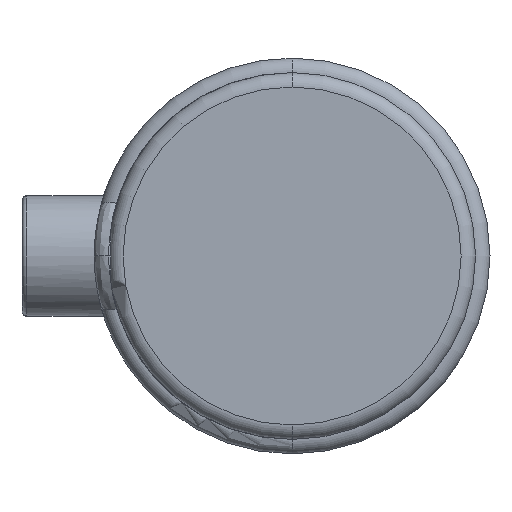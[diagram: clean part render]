
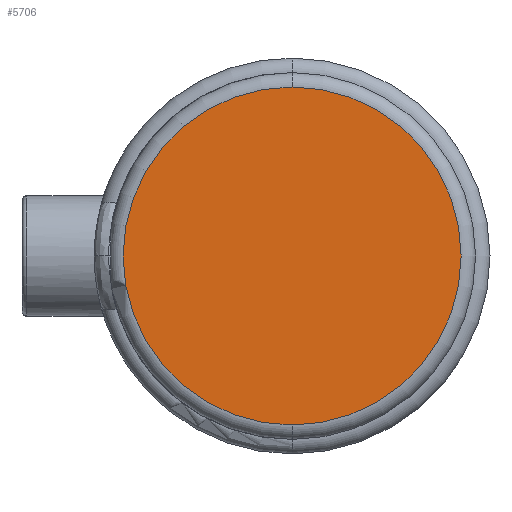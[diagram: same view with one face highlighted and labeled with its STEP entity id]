
A CAD part, left-side view. The second image highlights one B-rep face of the part: STEP entity #5706.
In plain terms, the highlighted planar face has unit normal (-1, 0, 0).
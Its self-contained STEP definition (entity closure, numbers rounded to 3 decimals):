
#232 = ORIENTED_EDGE ( 'NONE', *, *, #968, .T. ) ;
#283 = EDGE_LOOP ( 'NONE', ( #232, #302 ) ) ;
#302 = ORIENTED_EDGE ( 'NONE', *, *, #5190, .T. ) ;
#525 = CARTESIAN_POINT ( 'NONE',  ( 0., 0., 35.1 ) ) ;
#968 = EDGE_CURVE ( 'NONE', #2208, #4924, #4156, .T. ) ;
#1094 = CARTESIAN_POINT ( 'NONE',  ( 0., 0., 0. ) ) ;
#1345 = AXIS2_PLACEMENT_3D ( 'NONE', #4298, #1688, #4738 ) ;
#1536 = DIRECTION ( 'NONE',  ( 0., 0., 1. ) ) ;
#1688 = DIRECTION ( 'NONE',  ( -1., 0., 0. ) ) ;
#2208 = VERTEX_POINT ( 'NONE', #525 ) ;
#2597 = PLANE ( 'NONE',  #3270 ) ;
#2957 = FACE_OUTER_BOUND ( 'NONE', #283, .T. ) ;
#3042 = DIRECTION ( 'NONE',  ( 0., 0., 1. ) ) ;
#3270 = AXIS2_PLACEMENT_3D ( 'NONE', #4740, #5673, #3042 ) ;
#3989 = CARTESIAN_POINT ( 'NONE',  ( 0., 0., -35.1 ) ) ;
#4156 = CIRCLE ( 'NONE', #1345, 35.1 ) ;
#4158 = DIRECTION ( 'NONE',  ( -1., 0., 0. ) ) ;
#4243 = AXIS2_PLACEMENT_3D ( 'NONE', #1094, #4158, #1536 ) ;
#4298 = CARTESIAN_POINT ( 'NONE',  ( 0., 0., 0. ) ) ;
#4738 = DIRECTION ( 'NONE',  ( 0., 0., 1. ) ) ;
#4740 = CARTESIAN_POINT ( 'NONE',  ( 0., 0., 0. ) ) ;
#4924 = VERTEX_POINT ( 'NONE', #3989 ) ;
#4928 = CIRCLE ( 'NONE', #4243, 35.1 ) ;
#5190 = EDGE_CURVE ( 'NONE', #4924, #2208, #4928, .T. ) ;
#5673 = DIRECTION ( 'NONE',  ( -1., 0., 0. ) ) ;
#5706 = ADVANCED_FACE ( 'NONE', ( #2957 ), #2597, .T. ) ;
